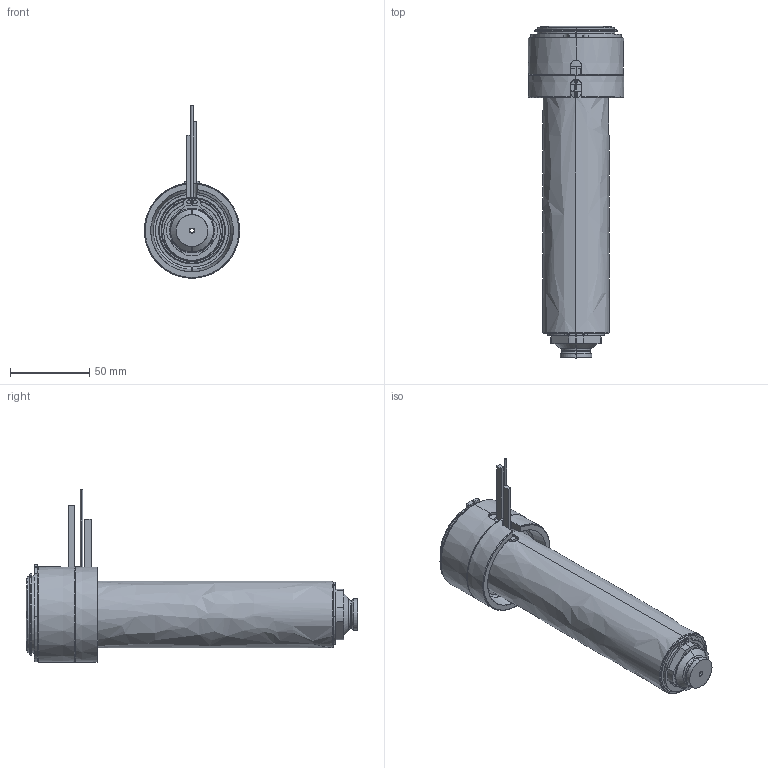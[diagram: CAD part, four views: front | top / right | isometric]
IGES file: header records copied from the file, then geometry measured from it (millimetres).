
Start section: SolidWorks IGES file using analytic representation for surfaces
Global section: file name: C:\Documents and Settings\ws-20\Desktop\TEM\UGER6607-M-A-0 [Øb-2.9 P-0 ØC-15].IGS; native system: SolidWorks 2012; preprocessor: SolidWorks 2012; author: ws-20; date: 120417.120115; units: millimetre
Bounding box: 60 x 209.25 x 108.65 mm (x, y, z)
Surface area: 109183.6 mm2 (no closed solid volume)
Topology: 0 solids, 0 shells, 165 faces, 3058 edges, 3058 vertices
Faces by surface type: revolution 99, bspline 66
